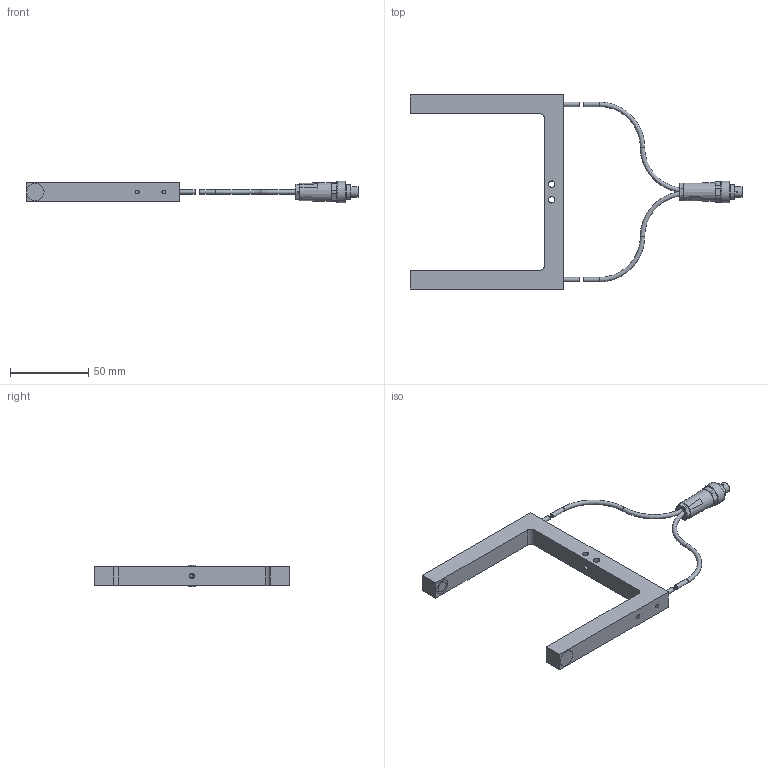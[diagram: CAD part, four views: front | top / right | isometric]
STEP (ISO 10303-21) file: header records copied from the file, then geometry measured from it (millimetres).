
FILE_DESCRIPTION(/* description */ (''),/* implementation_level */ '2;1');
FILE_NAME(/* name */ 'H:\ZVW\Inventor\E-Mail-Zeichnungen\STEP\HOMEPAGE\A-LAS-F12-...-100_80-C_0720_00.stp',/* time_stamp */ '2014-08-18T17:23:08+02:00',/* author */ ('TK-01'),/* organization */ (''),/* preprocessor_version */ 'ST-DEVELOPER v15.2',/* originating_system */ 'Autodesk Inventor 2014',/* authorisation */ '');
FILE_SCHEMA (('AUTOMOTIVE_DESIGN { 1 0 10303 214 3 1 1 }'));
Length unit declared in the file: millimetre
Products named in the file (1): Bauteil22
Bounding box: 212.1 x 124 x 14 mm (x, y, z)
Volume: 173955 mm3; surface area: 64034.7 mm2
Topology: 8 solids, 12 shells, 159 faces, 341 edges, 224 vertices
Faces by surface type: plane 72, cylinder 60, cone 11, sphere 9, torus 5, bspline 2
Full cylindrical faces by diameter (mm): 0.5 x7, 2.5 x8, 2.8 x4, 2.9 x2, 3.2 x1, 4.1 x2, 5.5 x1, 6 x1, 6.8 x1, 7.1 x1, 7.15 x2, 7.5 x1, 8 x1, 9 x2, 10 x2, 14 x1
Entity records: 4161 total; most frequent: CARTESIAN_POINT 802, DIRECTION 698, ORIENTED_EDGE 520, AXIS2_PLACEMENT_3D 305, EDGE_CURVE 256, EDGE_LOOP 248, VERTEX_POINT 196, ADVANCED_FACE 159
